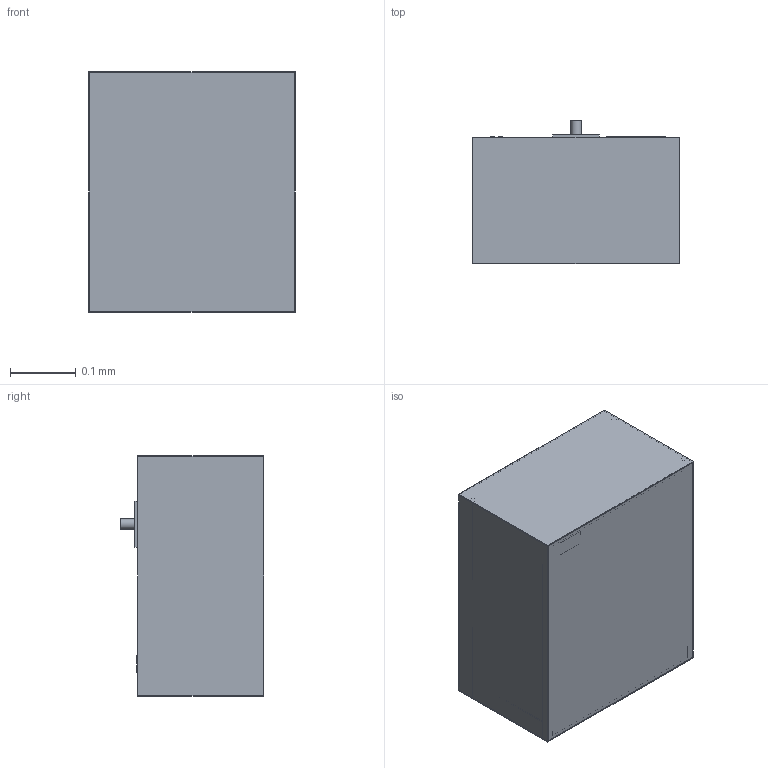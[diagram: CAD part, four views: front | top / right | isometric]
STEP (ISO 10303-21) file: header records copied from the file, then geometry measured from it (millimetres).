
FILE_DESCRIPTION(('Open CASCADE Model'),'2;1');
FILE_NAME('Open CASCADE Shape Model','2026-10-04T10:37:30',('Author'),( 'Open CASCADE'),'Open CASCADE STEP processor 7.9','Open CASCADE 7.9' ,'Unknown');
FILE_SCHEMA(('AUTOMOTIVE_DESIGN { 1 0 10303 214 1 1 1 1 }'));
Length unit declared in the file: millimetre
Products named in the file (137): MOD-microalgae; fluid__fresh_medium_225_mL; fluid__fresh_medium_port; fluid__fixative_225_mL; fluid__fixative_port; fluid__fixative_wells_225_mL; fluid__fixative_wells_port; experiment__PBR_base_rail_front; experiment__PBR_base_rail_back; sample__photobioreactor_1_frame_and_fittings; sample__photobioreactor_1_algae_culture; sample__photobioreactor_1_PTFE_membrane; imaging__LED_panel_1; experiment__LEDs_1; experiment__PAR_photodiode_1; experiment__OD_emitter_1; experiment__OD_detector_1; experiment__headspace_pressure_transducer_1; experiment__PBR_1_port; experiment__jumper_line_1_to_2; sample__photobioreactor_2_frame_and_fittings; sample__photobioreactor_2_algae_culture; sample__photobioreactor_2_PTFE_membrane; imaging__LED_panel_2; experiment__LEDs_2; experiment__PAR_photodiode_2; experiment__OD_emitter_2; experiment__OD_detector_2; experiment__headspace_pressure_transducer_2; experiment__PBR_2_port; experiment__jumper_line_2_to_3; sample__photobioreactor_3_frame_and_fittings; sample__photobioreactor_3_algae_culture; sample__photobioreactor_3_PTFE_membrane; imaging__LED_panel_3; experiment__LEDs_3; experiment__PAR_photodiode_3; experiment__OD_emitter_3; experiment__OD_detector_3; experiment__headspace_pressure_transducer_3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
Assembly tree (136 placements, depth 2):
  MOD-microalgae
    fluid__fresh_medium_225_mL
    fluid__fresh_medium_port
    fluid__fixative_225_mL
    fluid__fixative_port
    fluid__fixative_wells_225_mL
    fluid__fixative_wells_port
    experiment__PBR_base_rail_front
    experiment__PBR_base_rail_back
    sample__photobioreactor_1_frame_and_fittings
    sample__photobioreactor_1_algae_culture
    sample__photobioreactor_1_PTFE_membrane
    imaging__LED_panel_1
    experiment__LEDs_1
    experiment__PAR_photodiode_1
    experiment__OD_emitter_1
    experiment__OD_detector_1
    experiment__headspace_pressure_transducer_1
    experiment__PBR_1_port
    experiment__jumper_line_1_to_2
    sample__photobioreactor_2_frame_and_fittings
    sample__photobioreactor_2_algae_culture
    sample__photobioreactor_2_PTFE_membrane
    imaging__LED_panel_2
    experiment__LEDs_2
    experiment__PAR_photodiode_2
    experiment__OD_emitter_2
    experiment__OD_detector_2
    experiment__headspace_pressure_transducer_2
    experiment__PBR_2_port
    experiment__jumper_line_2_to_3
    sample__photobioreactor_3_frame_and_fittings
    sample__photobioreactor_3_algae_culture
    sample__photobioreactor_3_PTFE_membrane
    imaging__LED_panel_3
    experiment__LEDs_3
    experiment__PAR_photodiode_3
    experiment__OD_emitter_3
    experiment__OD_detector_3
    experiment__headspace_pressure_transducer_3
    experiment__PBR_3_port
    experiment__jumper_line_3_to_4
    sample__photobioreactor_4_frame_and_fittings
    sample__photobioreactor_4_algae_culture
    sample__photobioreactor_4_PTFE_membrane
    imaging__LED_panel_4
    experiment__LEDs_4
    experiment__PAR_photodiode_4
    experiment__OD_emitter_4
    experiment__OD_detector_4
    experiment__headspace_pressure_transducer_4
    experiment__PBR_4_port
    electronics__controller_enclosure_boards_data_storage
    electronics__connector_1
    electronics__connector_2
    sensor__optical_O2_pH_reader
    sensor__reader_fibre_1
    sensor__reader_fibre_2
    pump__fluid_manifold
    pump__micro_pump_1
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Bounding box: 0.31 x 0.22 x 0.37 mm (x, y, z)
Volume: 0 mm3; surface area: 2 mm2
Topology: 197 solids, 197 shells, 940 faces, 1638 edges, 1092 vertices
Faces by surface type: plane 838, cylinder 102
Full cylindrical faces by diameter (mm): 0.003 x40, 0.005 x27, 0.006 x10, 0.009 x4, 0.01 x4, 0.012 x2, 0.016 x1, 0.02 x2
Entity records: 47109 total; most frequent: DIRECTION 7260, CARTESIAN_POINT 7155, LINE 4506, VECTOR 4506, ORIENTED_EDGE 3276, PCURVE 3276, DEFINITIONAL_REPRESENTATION 3276, EDGE_CURVE 1638
